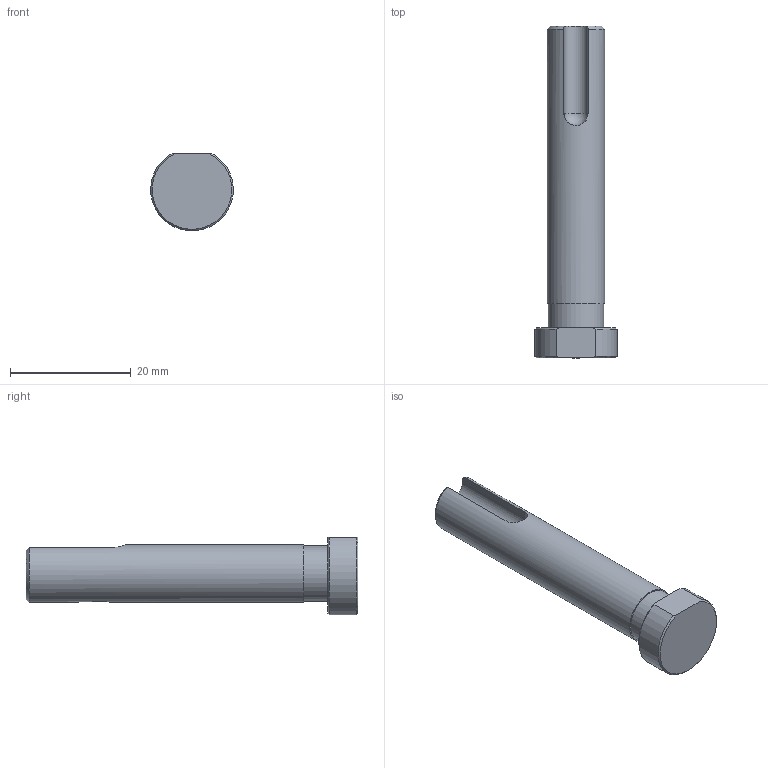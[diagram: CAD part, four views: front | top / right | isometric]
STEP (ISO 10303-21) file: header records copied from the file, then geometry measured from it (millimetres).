
FILE_DESCRIPTION (( 'STEP AP214' ), '1' );
FILE_NAME ('P3-8.50.1.STEP', '2023-03-14T08:37:39', ( '' ), ( '' ), 'SwSTEP 2.0', 'SolidWorks 2022', '' );
FILE_SCHEMA (( 'AUTOMOTIVE_DESIGN' ));
Length unit declared in the file: millimetre
Products named in the file (1): P3-8.50.1
Bounding box: 13.69 x 55 x 12.83 mm (x, y, z)
Volume: 3923.2 mm3; surface area: 2127.2 mm2
Topology: 1 solids, 1 shells, 22 faces, 58 edges, 39 vertices
Faces by surface type: plane 8, cylinder 6, cone 4, bspline 3, sphere 1
Full cylindrical faces by diameter (mm): 9.125 x1, 9.525 x1
Entity records: 2948 total; most frequent: CARTESIAN_POINT 2458, ORIENTED_EDGE 100, DIRECTION 80, EDGE_CURVE 50, VERTEX_POINT 35, AXIS2_PLACEMENT_3D 34, EDGE_LOOP 25, B_SPLINE_CURVE_WITH_KNOTS 23
